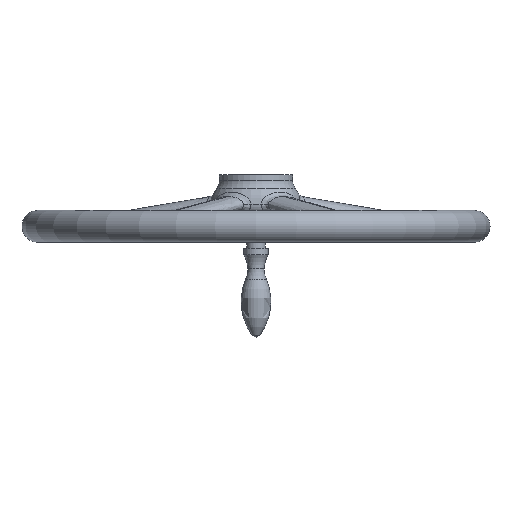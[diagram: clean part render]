
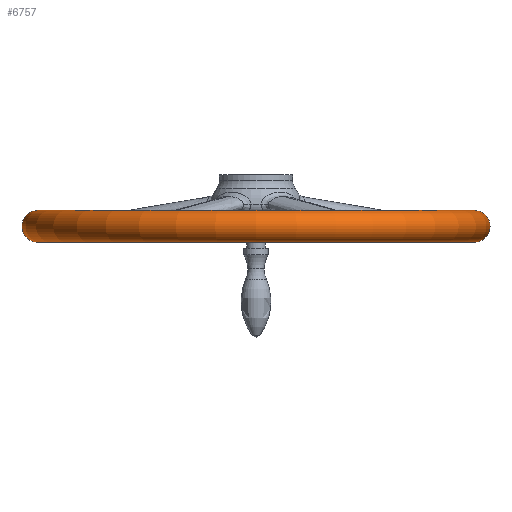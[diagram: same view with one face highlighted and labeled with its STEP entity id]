
A CAD part, front view. The second image highlights one B-rep face of the part: STEP entity #6757.
In plain terms, the highlighted toroidal (fillet/blend) face has major radius 233 mm and minor radius 17 mm.
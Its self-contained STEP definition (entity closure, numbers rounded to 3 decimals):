
#249 = DIRECTION ( 'NONE',  ( 0., 0., 1. ) ) ;
#314 = EDGE_CURVE ( 'NONE', #1607, #7156, #3380, .T. ) ;
#326 = DIRECTION ( 'NONE',  ( -1., 0., 0. ) ) ;
#380 = DIRECTION ( 'NONE',  ( 1., 0., 0. ) ) ;
#454 = EDGE_CURVE ( 'NONE', #1607, #11940, #10591, .T. ) ;
#902 = CARTESIAN_POINT ( 'NONE',  ( 0., 0., -40.34 ) ) ;
#1607 = VERTEX_POINT ( 'NONE', #9388 ) ;
#1683 = DIRECTION ( 'NONE',  ( 1., 0., 0. ) ) ;
#1879 = ORIENTED_EDGE ( 'NONE', *, *, #454, .F. ) ;
#2151 = CARTESIAN_POINT ( 'NONE',  ( 233., 0., -57.34 ) ) ;
#2194 = EDGE_CURVE ( 'NONE', #7156, #3454, #10822, .T. ) ;
#2890 = ORIENTED_EDGE ( 'NONE', *, *, #2194, .T. ) ;
#3001 = ORIENTED_EDGE ( 'NONE', *, *, #314, .T. ) ;
#3121 = DIRECTION ( 'NONE',  ( 0., 0., -1. ) ) ;
#3380 = CIRCLE ( 'NONE', #7502, 233. ) ;
#3454 = VERTEX_POINT ( 'NONE', #5235 ) ;
#4985 = CARTESIAN_POINT ( 'NONE',  ( -233., 0., -57.34 ) ) ;
#5235 = CARTESIAN_POINT ( 'NONE',  ( 233., 0., -40.34 ) ) ;
#6179 = CARTESIAN_POINT ( 'NONE',  ( -233., 0., -40.34 ) ) ;
#6757 = ADVANCED_FACE ( 'NONE', ( #8394 ), #12525, .T. ) ;
#7094 = ORIENTED_EDGE ( 'NONE', *, *, #10406, .F. ) ;
#7111 = AXIS2_PLACEMENT_3D ( 'NONE', #4985, #9041, #326 ) ;
#7156 = VERTEX_POINT ( 'NONE', #10077 ) ;
#7376 = AXIS2_PLACEMENT_3D ( 'NONE', #10398, #7504, #1683 ) ;
#7502 = AXIS2_PLACEMENT_3D ( 'NONE', #12269, #249, #380 ) ;
#7504 = DIRECTION ( 'NONE',  ( 0., 0., 1. ) ) ;
#7826 = DIRECTION ( 'NONE',  ( 1., 0., 0. ) ) ;
#8394 = FACE_OUTER_BOUND ( 'NONE', #12472, .T. ) ;
#9028 = AXIS2_PLACEMENT_3D ( 'NONE', #902, #11894, #7826 ) ;
#9041 = DIRECTION ( 'NONE',  ( 0., 1., 0. ) ) ;
#9388 = CARTESIAN_POINT ( 'NONE',  ( -233., 0., -74.34 ) ) ;
#10026 = DIRECTION ( 'NONE',  ( 0., -1., 0. ) ) ;
#10077 = CARTESIAN_POINT ( 'NONE',  ( 233., 0., -74.34 ) ) ;
#10398 = CARTESIAN_POINT ( 'NONE',  ( 0., 0., -57.34 ) ) ;
#10406 = EDGE_CURVE ( 'NONE', #11940, #3454, #11513, .T. ) ;
#10591 = CIRCLE ( 'NONE', #7111, 17. ) ;
#10822 = CIRCLE ( 'NONE', #11434, 17. ) ;
#11434 = AXIS2_PLACEMENT_3D ( 'NONE', #2151, #10026, #3121 ) ;
#11513 = CIRCLE ( 'NONE', #9028, 233. ) ;
#11894 = DIRECTION ( 'NONE',  ( 0., 0., 1. ) ) ;
#11940 = VERTEX_POINT ( 'NONE', #6179 ) ;
#12269 = CARTESIAN_POINT ( 'NONE',  ( 0., 0., -74.34 ) ) ;
#12472 = EDGE_LOOP ( 'NONE', ( #1879, #3001, #2890, #7094 ) ) ;
#12525 = TOROIDAL_SURFACE ( 'NONE', #7376, 233., 17. ) ;
